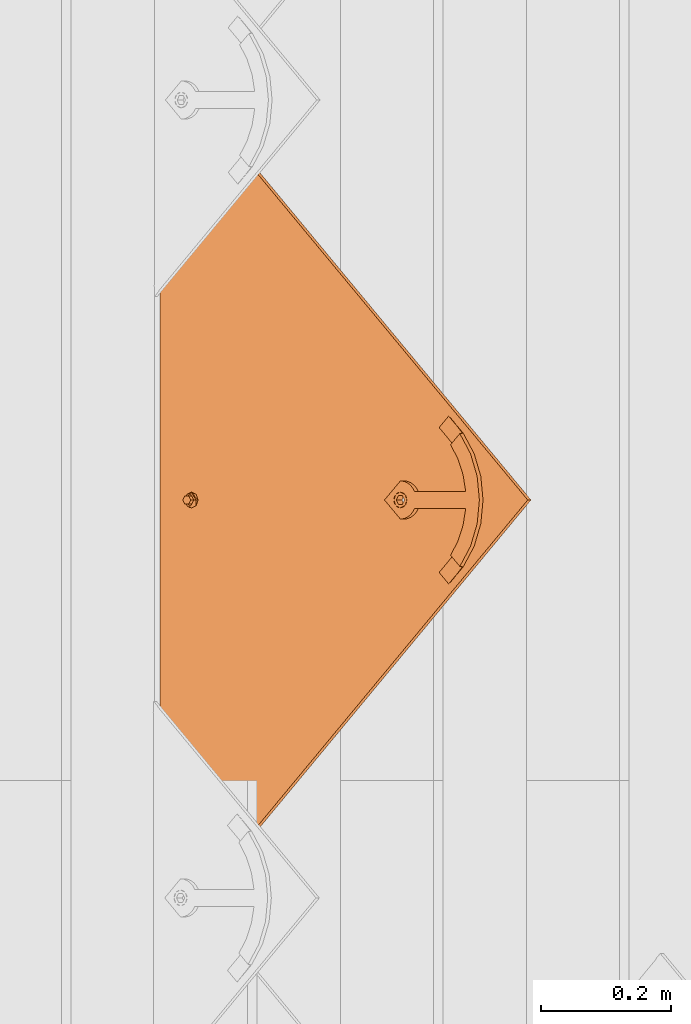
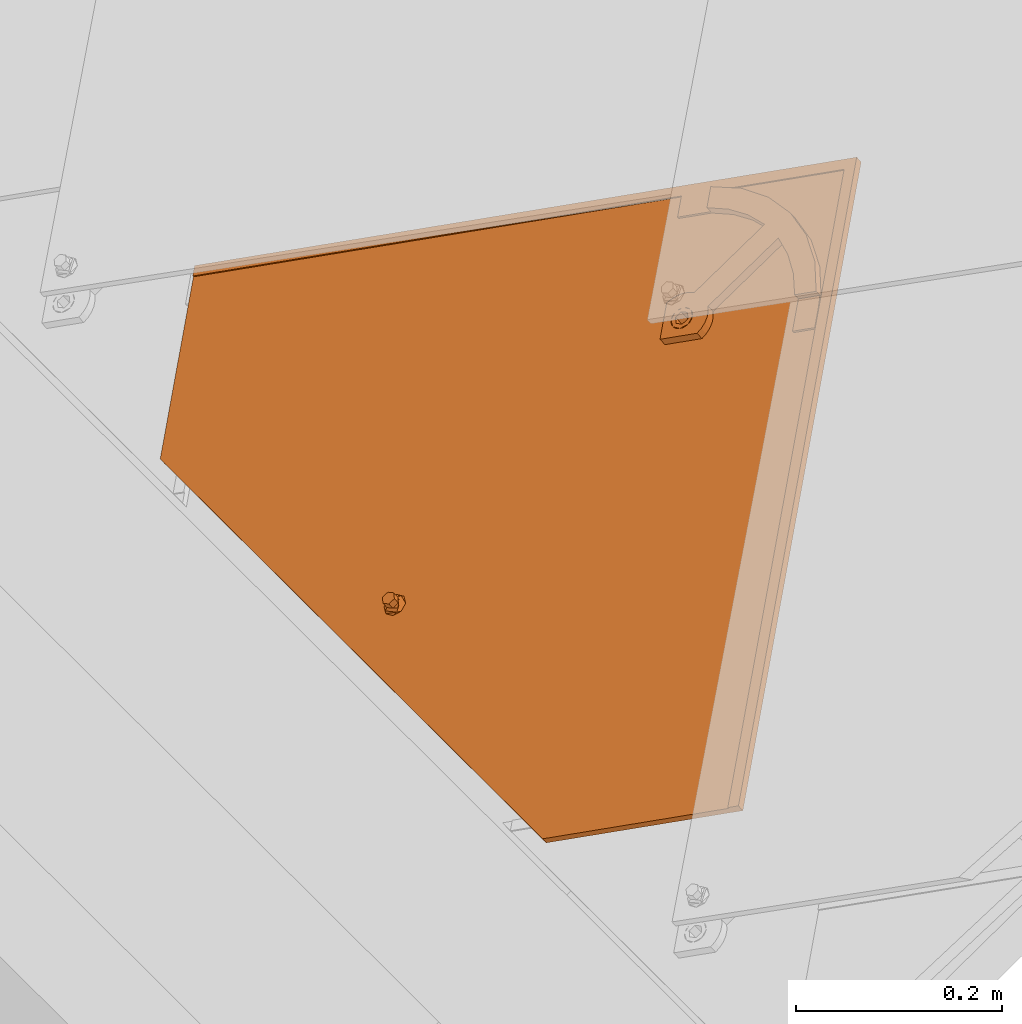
# One storey, part 9 of 151: 1 proxy.
"""IFC2X3 building model written with IfcOpenShell, lengths in millimetres."""

from ifc_helpers import new_model, entity, si_unit, converted_unit, derived_unit, direction, frame, origin, place, context, subcontext, project, spatial, faceted_brep, source, transform, mapped, material, material_list, type_object, type_shapes, element, save


model = new_model("IFC2X3")

# Units and contexts
model_context = context("Model", 3, precision=0.01, world=origin(), true_north=direction((6.12303176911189e-17, 1.0)))
body_context = subcontext(model_context, "Body", "Model", "MODEL_VIEW")
ifc_project = project(units=[si_unit("LENGTHUNIT", "METRE", prefix="MILLI"), si_unit("AREAUNIT", "SQUARE_METRE"), si_unit("VOLUMEUNIT", "CUBIC_METRE"), converted_unit("PLANEANGLEUNIT", "DEGREE", entity("IfcRatioMeasure", 0.0174532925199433), si_unit("PLANEANGLEUNIT", "RADIAN"), dimensions=[0, 0, 0, 0, 0, 0, 0]), si_unit("MASSUNIT", "GRAM", prefix="KILO"), derived_unit("MASSDENSITYUNIT", [(si_unit("MASSUNIT", "GRAM", prefix="KILO"), 1), (si_unit("LENGTHUNIT", "METRE"), -3)]), si_unit("TIMEUNIT", "SECOND"), si_unit("FREQUENCYUNIT", "HERTZ"), si_unit("THERMODYNAMICTEMPERATUREUNIT", "DEGREE_CELSIUS"), derived_unit("THERMALTRANSMITTANCEUNIT", [(si_unit("MASSUNIT", "GRAM", prefix="KILO"), 1), (si_unit("THERMODYNAMICTEMPERATUREUNIT", "KELVIN"), -1), (si_unit("TIMEUNIT", "SECOND"), -3)]), derived_unit("VOLUMETRICFLOWRATEUNIT", [(si_unit("LENGTHUNIT", "METRE"), 3), (si_unit("TIMEUNIT", "SECOND"), -1)]), si_unit("ELECTRICCURRENTUNIT", "AMPERE"), si_unit("ELECTRICVOLTAGEUNIT", "VOLT"), si_unit("POWERUNIT", "WATT"), si_unit("FORCEUNIT", "NEWTON", prefix="KILO"), si_unit("ILLUMINANCEUNIT", "LUX"), si_unit("LUMINOUSFLUXUNIT", "LUMEN"), si_unit("LUMINOUSINTENSITYUNIT", "CANDELA"), derived_unit("USERDEFINED", [(si_unit("MASSUNIT", "GRAM", prefix="KILO"), -1), (si_unit("LENGTHUNIT", "METRE"), -2), (si_unit("TIMEUNIT", "SECOND"), 3), (si_unit("LUMINOUSFLUXUNIT", "LUMEN"), 1)]), derived_unit("LINEARVELOCITYUNIT", [(si_unit("LENGTHUNIT", "METRE"), 1), (si_unit("TIMEUNIT", "SECOND"), -1)]), si_unit("PRESSUREUNIT", "PASCAL"), derived_unit("USERDEFINED", [(si_unit("LENGTHUNIT", "METRE"), -2), (si_unit("MASSUNIT", "GRAM", prefix="KILO"), 1), (si_unit("TIMEUNIT", "SECOND"), -2)])], contexts=[model_context])

# Site, building, storey
site_placement = place(None, origin())
site = spatial("IfcSite", under=ifc_project, at=site_placement, Name="Default", CompositionType="ELEMENT")
building_placement = place(site_placement, origin())
building = spatial("IfcBuilding", under=site, at=building_placement, CompositionType="ELEMENT")
storey_placement = place(building_placement, origin())
storey = spatial("IfcBuildingStorey", under=building, at=storey_placement, Name="Level 1", CompositionType="ELEMENT", Elevation=0.0)

# Proxy
ifc_material_1 = material(Name="Rubber - Sunstyle - Black")
ifc_material_2 = material(Name="Glass - Sunstyle - Tainted Black")
ifc_material_list_1 = material_list([ifc_material_1, ifc_material_2])
ifc_material_list_2 = material_list([ifc_material_1, ifc_material_2])
building_element_proxy_type = type_object("IfcBuildingElementProxyType", Name="Shingle Bottom - Black", PredefinedType="NOTDEFINED", material=ifc_material_list_2)
shared_shape = source(origin(), body_context, "Body", "Brep", [
    faceted_brep([(0.0, -1.79273515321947, -4.01619789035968), (-5.7742028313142, -5.12600528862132, -3.96037390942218), (-5.77420283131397, -4.75769619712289, 18.0314954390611), (0.0, -1.42442606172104, 17.9756714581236), (-5.77420283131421, -11.792545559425, -3.84872594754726), (-5.77420283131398, -11.4242364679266, 18.143143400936), (0.0, -15.1258156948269, -3.79290196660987), (0.0, -14.7575066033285, 18.1989673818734), (5.77420283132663, -11.7925455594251, -3.84872594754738), (5.77420283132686, -11.4242364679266, 18.1431434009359), (5.77420283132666, -5.12600528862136, -3.96037390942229), (5.77420283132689, -4.75769619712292, 18.031495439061), (-8.60370416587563, -16.6934641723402, 18.2313898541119), (0.0, -20.2567354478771, 18.2910657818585), (-12.1674751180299, -8.09096633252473, 18.0873194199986), (-8.60370416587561, 0.511531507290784, 17.9432489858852), (0.0, 4.07480278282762, 17.8835730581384), (8.60370416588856, 0.511531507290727, 17.9432489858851), (12.1674751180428, -8.09096633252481, 18.0873194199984), (8.60370416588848, -16.6934641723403, 18.2313898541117), (-11.4302228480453, -6.71737066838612, 20.4858706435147), (-9.77051349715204, -8.02009729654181, 22.3189355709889), (0.0, -0.706876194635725, 22.9603444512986), (0.0, 0.533621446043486, 22.3799978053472), (0.0, 2.69117229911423, 21.3706227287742), (-6.32324569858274, -4.35709193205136, 23.021476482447), (-6.32324569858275, -11.6575234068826, 23.1437405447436), (0.0, -18.7571148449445, 21.7298281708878), (0.0, -15.3077391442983, 23.2048725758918), (10.9851748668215, -11.808022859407, 20.3827540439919), (10.123850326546, -8.02413622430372, 22.0777687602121), (6.32324569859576, -4.3570919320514, 23.0214764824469), (6.32324569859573, -11.6575234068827, 23.1437405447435), (-6.32324569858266, -11.5234949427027, 31.146628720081), (0.0, -15.1737106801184, 31.2077607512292), (0.0, -7.8732792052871, 31.0854966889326), (-6.32324569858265, -4.22306346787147, 31.0243646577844), (6.32324569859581, -11.5234949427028, 31.1466287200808), (6.32324569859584, -4.22306346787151, 31.0243646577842), (0.0, -0.57284773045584, 30.963232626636), (0.0, -8.45927542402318, -3.90454992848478)], [[[0, 1, 2, 3]], [[1, 4, 5, 2]], [[4, 6, 7, 5]], [[6, 8, 9, 7]], [[8, 10, 11, 9]], [[10, 0, 3, 11]], [[12, 7, 13]], [[7, 12, 5]], [[14, 5, 12]], [[5, 14, 2]], [[15, 2, 14]], [[3, 2, 15]], [[15, 16, 3]], [[16, 17, 3]], [[11, 3, 17]], [[11, 17, 18]], [[9, 11, 18]], [[18, 19, 9]], [[7, 9, 19]], [[19, 13, 7]], [[15, 20, 16]], [[21, 22, 23, 24]], [[22, 21, 25]], [[20, 14, 12]], [[15, 14, 20]], [[25, 21, 26]], [[20, 24, 16]], [[12, 13, 27]], [[12, 27, 20]], [[21, 28, 26]], [[21, 27, 28]], [[20, 21, 24]], [[20, 27, 21]], [[19, 29, 13]], [[30, 23, 31]], [[30, 28, 27]], [[24, 23, 30]], [[29, 27, 13]], [[19, 18, 29]], [[29, 30, 27]], [[29, 17, 24]], [[24, 17, 16]], [[31, 32, 30]], [[23, 22, 31]], [[28, 30, 32]], [[29, 24, 30]], [[29, 18, 17]], [[33, 34, 35]], [[35, 36, 33]], [[34, 37, 35]], [[38, 35, 37]], [[35, 38, 39]], [[35, 39, 36]], [[40, 6, 4]], [[4, 1, 40]], [[1, 0, 40]], [[40, 8, 6]], [[0, 10, 40]], [[8, 40, 10]], [[22, 25, 36, 39]], [[25, 26, 33, 36]], [[26, 28, 34, 33]], [[28, 32, 37, 34]], [[32, 31, 38, 37]], [[31, 22, 39, 38]]]),
    faceted_brep([(0.0, 372.824876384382, 20.3195200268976), (0.0, 377.324245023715, 20.2441667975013), (-8.60370416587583, 376.388147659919, 20.2598440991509), (8.60370416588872, 376.388147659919, 20.2598440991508), (6.64022859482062, 381.157445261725, 20.1799702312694), (12.1674751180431, 384.990645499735, 20.1157736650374), (6.64022859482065, 388.823845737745, 20.0515770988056), (8.6037041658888, 393.59314333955, 19.9717032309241), (0.0, 392.657045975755, 19.9873805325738), (0.0, 397.156414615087, 19.9120273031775), (-8.60370416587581, 393.59314333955, 19.9717032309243), (-6.64022859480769, 388.823845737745, 20.0515770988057), (-12.1674751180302, 384.990645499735, 20.1157736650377), (-6.6402285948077, 381.157445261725, 20.1799702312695), (-6.6402282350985, 388.555922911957, 4.05382046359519), (0.0, 392.389122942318, 3.98962390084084), (-6.64022823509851, 380.889522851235, 4.18221358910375), (0.0, 377.056322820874, 4.24641015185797), (6.64022823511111, 380.889522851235, 4.18221358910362), (6.64022823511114, 388.555922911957, 4.05382046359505), (-8.603704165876, 376.12022504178, 4.26208746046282), (0.0, 372.556953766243, 4.32176338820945), (-12.1674751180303, 384.722722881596, 4.11801702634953), (-8.60370416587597, 393.325220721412, 3.97394659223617), (0.0, 396.888491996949, 3.91427066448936), (8.60370416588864, 393.325220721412, 3.97394659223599), (12.1674751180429, 384.722722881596, 4.11801702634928), (8.60370416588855, 376.12022504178, 4.26208746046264)], [[[0, 1, 2]], [[1, 0, 3]], [[3, 4, 1]], [[4, 3, 5]], [[6, 4, 5]], [[5, 7, 6]], [[7, 8, 6]], [[8, 7, 9]], [[8, 9, 10]], [[10, 11, 8]], [[12, 11, 10]], [[2, 13, 12]], [[12, 13, 11]], [[13, 2, 1]], [[8, 11, 14, 15]], [[11, 13, 16, 14]], [[13, 1, 17, 16]], [[1, 4, 18, 17]], [[4, 6, 19, 18]], [[6, 8, 15, 19]], [[20, 17, 21]], [[17, 20, 16]], [[22, 16, 20]], [[14, 16, 22]], [[23, 14, 22]], [[15, 14, 23]], [[23, 24, 15]], [[24, 25, 15]], [[19, 15, 25]], [[19, 25, 26]], [[26, 18, 19]], [[26, 27, 18]], [[17, 18, 27]], [[27, 21, 17]], [[24, 23, 10, 9]], [[10, 23, 22, 12]], [[20, 21, 0, 2]], [[20, 2, 12, 22]], [[21, 27, 3, 0]], [[3, 27, 26, 5]], [[25, 24, 9, 7]], [[25, 7, 5, 26]]]),
    faceted_brep([(518.247351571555, 79.9143812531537, 14.965257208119), (526.732038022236, 88.3990677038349, 14.8231598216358), (526.732038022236, 88.4241854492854, 16.3229495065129), (518.247351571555, 79.9394989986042, 16.4650468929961), (0.000322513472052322, 598.016093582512, 6.28834266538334), (-518.246706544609, 79.9143812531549, 14.9652572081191), (-526.73139299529, 88.3990677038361, 14.8231598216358), (0.000322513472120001, 614.983087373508, 6.00418773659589), (0.000322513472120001, 615.008205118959, 7.50397742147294), (-526.731392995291, 88.4241854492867, 16.3229495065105), (-518.246706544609, 79.9394989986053, 16.465046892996), (0.000322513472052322, 598.041211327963, 7.78813235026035)], [[[0, 1, 2, 3]], [[1, 0, 4, 5, 6, 7]], [[2, 1, 7, 8]], [[3, 2, 8, 9, 10, 11]], [[0, 3, 11, 4]], [[5, 10, 9, 6]], [[8, 7, 6, 9]], [[4, 11, 10, 5]]]),
    faceted_brep([(0.00032251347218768, 614.983087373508, 6.00418773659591), (-2.87802047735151, 396.187349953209, 9.66847193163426), (0.227808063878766, 396.596182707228, 9.6616250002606), (-5.77219193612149, 394.988712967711, 9.68854611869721), (3.3336366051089, 396.187349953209, 9.66847193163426), (6.22780806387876, 394.988712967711, 9.6885461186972), (8.71308943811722, 393.081956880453, 9.72047953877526), (10.620112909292, 390.59702396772, 9.76209598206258), (-8.25747331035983, 393.081956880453, 9.72047953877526), (-10.1644967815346, 390.59702396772, 9.76209598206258), (-11.3633018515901, 387.703258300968, 9.81055935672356), (-526.731392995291, 88.3990677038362, 14.8231598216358), (11.8189179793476, 387.703258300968, 9.81055935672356), (526.732038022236, 88.3990677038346, 14.8231598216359), (-11.7721919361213, 384.597865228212, 9.86256696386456), (-11.3633018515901, 381.492472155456, 9.91457457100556), (-10.1644967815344, 378.598706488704, 9.96303794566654), (-370.355016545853, -67.9334607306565, 17.4413406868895), (-8.25747331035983, 376.113773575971, 10.0046543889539), (-5.65685424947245, -2.29422365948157, 16.3420467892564), (-6.92820323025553, -3.95084560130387, 16.3697910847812), (-7.72740661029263, -5.88002271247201, 16.4021000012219), (-8.0, -7.95028476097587, 16.4367717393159), (-7.72740661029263, -10.0205468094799, 16.4714434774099), (-6.9282032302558, -11.9497239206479, 16.5037523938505), (-5.65685424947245, -13.6063458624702, 16.5314966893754), (-4.0, -14.8775165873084, 16.5527856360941), (-2.07055236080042, -15.676607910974, 16.5661684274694), (0.0, -15.9491630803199, 16.5707330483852), (370.355661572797, -67.9334607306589, 17.4413406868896), (10.620112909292, 378.598706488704, 9.96303794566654), (8.71308943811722, 376.11377357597, 10.0046543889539), (5.65685424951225, -2.29422365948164, 16.3420467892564), (6.92820323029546, -3.9508456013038, 16.3697910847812), (7.72740661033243, -5.88002271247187, 16.4021000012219), (8.0, -7.9502847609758, 16.4367717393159), (7.72740661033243, -10.0205468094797, 16.4714434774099), (6.92820323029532, -11.9497239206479, 16.5037523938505), (5.65685424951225, -13.6063458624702, 16.5314966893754), (4.0, -14.8775165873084, 16.5527856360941), (2.07055236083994, -15.676607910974, 16.5661684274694), (-5.77219193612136, 374.207017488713, 10.0365878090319), (-4.0, -1.02305293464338, 16.3207578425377), (-2.87802047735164, 373.008380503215, 10.0566619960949), (-2.07055236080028, -0.223961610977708, 16.3073750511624), (0.227808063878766, 372.599547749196, 10.0635089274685), (0.0, 0.0485935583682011, 16.3028104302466), (2.07055236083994, -0.223961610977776, 16.3073750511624), (3.3336366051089, 373.008380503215, 10.0566619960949), (4.0, -1.02305293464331, 16.3207578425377), (6.22780806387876, 374.207017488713, 10.0365878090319), (12.2278080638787, 384.597865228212, 9.86256696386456), (11.8189179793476, 381.492472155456, 9.91457457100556), (-370.355016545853, -68.059049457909, 9.94239226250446), (-6.92820323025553, -4.07643432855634, 8.87084266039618), (-7.72740661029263, -6.00561143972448, 8.90315157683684), (-8.0, -8.07587348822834, 8.93782331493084), (-7.72740661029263, -10.1461355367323, 8.97249505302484), (-6.9282032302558, -12.0753126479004, 9.00480396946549), (-5.65685424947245, -13.7319345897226, 9.03254826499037), (-5.65685424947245, -2.41981238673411, 8.8430983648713), (-8.25747331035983, 375.988184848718, 2.50570596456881), (-4.0, -15.0031053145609, 9.05383721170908), (-2.07055236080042, -15.8021966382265, 9.06722000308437), (0.0, -16.0747518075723, 9.07178462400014), (370.355661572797, -68.0590494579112, 9.9423922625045), (-10.1644967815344, 378.473117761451, 2.46408952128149), (-526.731392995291, 88.2734789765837, 7.32421139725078), (-11.3633018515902, 381.366883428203, 2.41562614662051), (-11.7721919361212, 384.472276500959, 2.36361853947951), (-11.3633018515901, 387.577669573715, 2.3116109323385), (0.00032251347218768, 614.857498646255, -1.49476068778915), (-10.1644967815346, 390.471435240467, 2.26314755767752), (-8.25747331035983, 392.956368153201, 2.22153111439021), (-5.77219193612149, 394.863124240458, 2.18959769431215), (-2.87802047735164, 396.061761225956, 2.16952350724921), (0.227808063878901, 396.470593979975, 2.16267657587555), (3.3336366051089, 396.061761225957, 2.1695235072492), (6.22780806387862, 394.863124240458, 2.18959769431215), (8.71308943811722, 392.956368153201, 2.2215311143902), (10.620112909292, 390.471435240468, 2.26314755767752), (11.8189179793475, 387.577669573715, 2.31161093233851), (526.732038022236, 88.2734789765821, 7.32421139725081), (12.2278080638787, 384.472276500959, 2.3636185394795), (10.620112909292, 378.473117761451, 2.46408952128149), (11.8189179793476, 381.366883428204, 2.41562614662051), (-5.77219193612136, 374.08142876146, 2.53763938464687), (-4.0, -1.14864166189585, 8.8218094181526), (-2.87802047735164, 372.882791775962, 2.55771357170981), (-2.07055236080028, -0.349550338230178, 8.8084266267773), (0.227808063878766, 372.473959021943, 2.56456050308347), (0.0, -0.0769951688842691, 8.80386200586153), (2.07055236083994, -0.349550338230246, 8.8084266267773), (3.3336366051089, 372.882791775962, 2.55771357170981), (4.0, -1.14864166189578, 8.8218094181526), (6.22780806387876, 374.081428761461, 2.53763938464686), (5.65685424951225, -2.41981238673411, 8.8430983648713), (8.71308943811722, 375.988184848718, 2.50570596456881), (6.92820323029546, -4.07643432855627, 8.87084266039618), (7.72740661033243, -6.00561143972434, 8.90315157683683), (8.0, -8.07587348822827, 8.93782331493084), (7.72740661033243, -10.1461355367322, 8.97249505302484), (6.92820323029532, -12.0753126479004, 9.00480396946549), (5.65685424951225, -13.7319345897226, 9.03254826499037), (4.0, -15.0031053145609, 9.05383721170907), (2.07055236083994, -15.8021966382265, 9.06722000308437)], [[[0, 1, 2]], [[1, 0, 3]], [[0, 2, 4]], [[4, 5, 0]], [[5, 6, 0]], [[0, 6, 7]], [[8, 3, 0]], [[9, 8, 0]], [[9, 0, 10]], [[10, 0, 11]], [[12, 0, 7]], [[12, 13, 0]], [[11, 14, 10]], [[14, 11, 15]], [[16, 15, 11]], [[11, 17, 16]], [[16, 17, 18]], [[19, 18, 17]], [[19, 17, 20]], [[20, 17, 21]], [[22, 21, 17]], [[22, 17, 23]], [[24, 23, 17]], [[17, 25, 24]], [[26, 25, 17]], [[27, 26, 17]], [[17, 28, 27]], [[28, 17, 29]], [[29, 13, 30]], [[29, 30, 31]], [[29, 31, 32]], [[32, 33, 29]], [[33, 34, 29]], [[35, 29, 34]], [[29, 35, 36]], [[36, 37, 29]], [[29, 37, 38]], [[38, 39, 29]], [[40, 28, 29]], [[39, 40, 29]], [[41, 18, 19]], [[42, 41, 19]], [[42, 43, 41]], [[44, 43, 42]], [[44, 45, 43]], [[46, 45, 44]], [[47, 45, 46]], [[48, 45, 47]], [[49, 48, 47]], [[49, 50, 48]], [[32, 50, 49]], [[32, 31, 50]], [[12, 51, 13]], [[52, 13, 51]], [[13, 52, 30]], [[53, 54, 55]], [[53, 55, 56]], [[56, 57, 53]], [[57, 58, 53]], [[53, 58, 59]], [[60, 54, 53]], [[61, 60, 53]], [[59, 62, 53]], [[62, 63, 53]], [[63, 64, 53]], [[53, 64, 65]], [[66, 61, 53]], [[66, 53, 67]], [[68, 66, 67]], [[69, 68, 67]], [[69, 67, 70]], [[67, 71, 70]], [[72, 70, 71]], [[73, 72, 71]], [[71, 74, 73]], [[74, 71, 75]], [[75, 71, 76]], [[77, 76, 71]], [[77, 71, 78]], [[79, 78, 71]], [[71, 80, 79]], [[80, 71, 81]], [[71, 82, 81]], [[83, 81, 82]], [[84, 82, 65]], [[85, 82, 84]], [[82, 85, 83]], [[86, 60, 61]], [[86, 87, 60]], [[88, 87, 86]], [[89, 87, 88]], [[90, 89, 88]], [[90, 91, 89]], [[92, 91, 90]], [[92, 90, 93]], [[94, 92, 93]], [[93, 95, 94]], [[94, 95, 96]], [[97, 96, 95]], [[96, 97, 65]], [[84, 65, 97]], [[98, 96, 65]], [[99, 98, 65]], [[99, 65, 100]], [[101, 100, 65]], [[102, 101, 65]], [[103, 102, 65]], [[104, 103, 65]], [[105, 104, 65]], [[65, 64, 105]], [[11, 0, 71, 67]], [[17, 11, 67, 53]], [[13, 29, 65, 82]], [[0, 13, 82, 71]], [[22, 56, 55, 21]], [[21, 55, 54, 20]], [[42, 19, 60, 87]], [[60, 19, 20, 54]], [[44, 42, 87, 89]], [[44, 89, 91, 46]], [[46, 91, 92, 47]], [[47, 92, 94, 49]], [[33, 32, 96, 98]], [[96, 32, 49, 94]], [[34, 33, 98, 99]], [[34, 99, 100, 35]], [[35, 100, 101, 36]], [[36, 101, 102, 37]], [[39, 38, 103, 104]], [[103, 38, 37, 102]], [[40, 39, 104, 105]], [[40, 105, 64, 28]], [[28, 64, 63, 27]], [[27, 63, 62, 26]], [[24, 25, 59, 58]], [[59, 25, 26, 62]], [[23, 24, 58, 57]], [[23, 57, 56, 22]], [[14, 69, 70, 10]], [[10, 70, 72, 9]], [[3, 8, 73, 74]], [[73, 8, 9, 72]], [[1, 3, 74, 75]], [[1, 75, 76, 2]], [[2, 76, 77, 4]], [[4, 77, 78, 5]], [[7, 6, 79, 80]], [[79, 6, 5, 78]], [[12, 7, 80, 81]], [[12, 81, 83, 51]], [[51, 83, 85, 52]], [[52, 85, 84, 30]], [[50, 31, 97, 95]], [[97, 31, 30, 84]], [[48, 50, 95, 93]], [[48, 93, 90, 45]], [[45, 90, 88, 43]], [[43, 88, 86, 41]], [[16, 18, 61, 66]], [[41, 86, 61, 18]], [[68, 15, 16, 66]], [[15, 68, 69, 14]], [[29, 17, 53, 65]]]),
    faceted_brep([(-111.269043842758, 451.472531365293, 11.2429332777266), (-84.9443960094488, 477.793488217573, 10.8021227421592), (-102.027571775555, 494.874268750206, 10.5160621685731), (-108.279973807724, 489.512620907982, 10.6058564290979), (-114.2509690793, 483.839345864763, 10.7008696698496), (-128.946713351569, 469.147722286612, 10.9469178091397), (128.946713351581, 469.147722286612, 10.9469178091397), (114.250969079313, 483.839345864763, 10.7008696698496), (108.279973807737, 489.512620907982, 10.6058564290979), (102.027571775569, 494.874268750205, 10.5160621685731), (84.9431983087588, 477.794685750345, 10.802102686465), (111.269043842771, 451.472531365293, 11.2429332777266), (-8.48528137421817, 393.302959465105, 19.7181805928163), (-18.7041061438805, 407.484939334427, 19.4806677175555), (-23.2046504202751, 402.851933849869, 19.5582590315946), (-10.3923048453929, 390.818026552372, 19.7597970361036), (-6.0, 395.209715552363, 19.6862471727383), (-13.2999999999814, 411.02298750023, 19.4214142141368), (-3.10582854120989, 396.408352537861, 19.6661729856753), (0.0, 396.81718529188, 19.6593260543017), (13.3000000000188, 411.022987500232, 19.4214142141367), (3.10582854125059, 396.408352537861, 19.6661729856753), (6.0, 395.209715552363, 19.6862471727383), (18.7041061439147, 407.484939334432, 19.4806677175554), (8.48528137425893, 393.302959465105, 19.7181805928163), (23.2046504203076, 402.85193384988, 19.5582590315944), (10.3923048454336, 390.818026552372, 19.7597970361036), (26.5842195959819, 397.347783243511, 19.6504398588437), (11.5911099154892, 387.92426088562, 19.8082604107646), (28.6795527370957, 391.238383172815, 19.752757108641), (12.0, 384.818867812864, 19.8602680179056), (29.3894280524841, 384.818867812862, 19.8602680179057), (11.5911099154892, 381.713474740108, 19.9122756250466), (10.3923048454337, 378.819709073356, 19.9607389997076), (8.48528137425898, 376.334776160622, 20.0023554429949), (0.0, 355.433560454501, 20.3523987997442), (6.0, 374.428020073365, 20.034288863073), (3.10582854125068, 373.229383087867, 20.0543630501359), (0.0, 372.820550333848, 20.0612099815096), (-3.10582854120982, 373.229383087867, 20.0543630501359), (-6.0, 374.428020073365, 20.034288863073), (-8.48528137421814, 376.334776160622, 20.0023554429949), (-29.3894280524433, 384.818867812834, 19.8602680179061), (-10.3923048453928, 378.819709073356, 19.9607389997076), (-11.5911099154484, 381.713474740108, 19.9122756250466), (-12.0, 384.818867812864, 19.8602680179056), (-28.67955273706, 391.238383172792, 19.7527571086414), (-11.5911099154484, 387.92426088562, 19.8082604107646), (-26.5842195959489, 397.347783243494, 19.650439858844), (-13.2999999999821, 505.810987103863, 17.833951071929), (13.3000000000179, 505.810987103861, 17.833951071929), (0.0, 531.282600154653, 17.4073649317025), (36.4908407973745, 527.108634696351, 17.4772684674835), (38.7697427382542, 500.996106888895, 17.9145883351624), (71.096085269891, 514.802420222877, 17.6833669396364), (62.9243331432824, 491.592473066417, 18.0720758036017), (102.027571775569, 494.999857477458, 18.0150105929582), (84.9443960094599, 477.919076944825, 18.3010711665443), (-36.4908407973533, 527.108634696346, 17.4772684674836), (-38.7697427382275, 500.996106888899, 17.9145883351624), (-71.0960852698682, 514.802420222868, 17.6833669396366), (-62.9243331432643, 491.592473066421, 18.0720758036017), (-102.027571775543, 494.999857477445, 18.0150105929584), (-84.9443960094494, 477.919076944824, 18.3010711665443), (0.0, 355.266108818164, 10.3538009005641), (0.0, 372.653098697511, 10.0626120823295), (3.10582854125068, 373.06193145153, 10.0557651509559), (-3.10582854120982, 373.06193145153, 10.0557651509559), (6.0, 374.260568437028, 10.0356909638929), (8.48528137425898, 376.167324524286, 10.0037575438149), (29.3894280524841, 384.651416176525, 9.86167011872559), (-6.0, 374.260568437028, 10.0356909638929), (-8.48528137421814, 376.167324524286, 10.0037575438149), (-29.3894280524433, 384.651416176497, 9.86167011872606), (-10.3923048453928, 378.652257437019, 9.96214110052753), (-11.5911099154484, 381.546023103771, 9.91367772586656), (-12.0, 384.651416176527, 9.86167011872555), (-28.67955273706, 391.070931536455, 9.75415920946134), (-11.5911099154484, 387.756809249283, 9.80966251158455), (-26.5842195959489, 397.180331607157, 9.65184195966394), (-10.3923048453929, 390.650574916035, 9.76119913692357), (-23.2046504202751, 402.684482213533, 9.5596611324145), (-8.48528137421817, 393.135507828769, 9.71958269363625), (-18.7041061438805, 407.31748769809, 9.48206981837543), (-6.0, 395.042263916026, 9.6876492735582), (-13.2999999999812, 410.855535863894, 9.4228163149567), (-3.10582854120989, 396.240900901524, 9.66757508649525), (0.0, 396.649733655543, 9.66072815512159), (13.3000000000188, 410.855535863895, 9.42281631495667), (-13.2999999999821, 505.643535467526, 7.83535317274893), (13.3000000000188, 505.643535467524, 7.83535317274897), (0.0, 531.115148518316, 7.4087670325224), (-36.4908407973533, 526.94118306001, 7.47867056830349), (-38.7697427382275, 500.828655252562, 7.91599043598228), (-71.0960852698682, 514.634968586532, 7.68476904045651), (-62.9243331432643, 491.425021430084, 8.07347790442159), (-102.027571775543, 494.832405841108, 8.01641269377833), (-84.9431983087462, 477.752822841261, 8.30245321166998), (-108.279973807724, 489.470757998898, 8.10620695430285), (-114.2509690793, 483.79748295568, 8.2012201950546), (-111.269043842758, 451.430668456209, 8.74328380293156), (-128.946713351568, 469.105859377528, 8.44726833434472), (36.4908407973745, 526.941183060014, 7.47867056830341), (38.7697427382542, 500.828655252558, 7.91599043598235), (71.096085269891, 514.634968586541, 7.68476904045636), (62.9243331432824, 491.425021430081, 8.07347790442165), (102.027571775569, 494.832405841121, 8.01641269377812), (84.9443960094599, 477.751625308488, 8.30247326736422), (108.279973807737, 489.470757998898, 8.10620695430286), (114.250969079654, 483.797482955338, 8.20122019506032), (111.269043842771, 451.430668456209, 8.74328380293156), (128.946713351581, 469.105859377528, 8.44726833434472), (3.10582854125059, 396.240900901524, 9.66757508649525), (6.0, 395.042263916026, 9.6876492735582), (18.7041061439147, 407.317487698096, 9.48206981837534), (8.48528137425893, 393.135507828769, 9.71958269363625), (23.2046504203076, 402.684482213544, 9.55966113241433), (10.3923048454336, 390.650574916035, 9.76119913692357), (26.5842195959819, 397.180331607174, 9.65184195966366), (11.5911099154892, 387.756809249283, 9.80966251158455), (28.6795527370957, 391.070931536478, 9.75415920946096), (12.0, 384.651416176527, 9.86167011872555), (11.5911099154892, 381.546023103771, 9.91367772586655), (10.3923048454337, 378.652257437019, 9.96214110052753)], [[[0, 1, 2, 3, 4, 5]], [[6, 7, 8, 9, 10, 11]], [[12, 13, 14]], [[15, 12, 14]], [[16, 13, 12]], [[13, 16, 17]], [[17, 16, 18]], [[18, 19, 17]], [[20, 17, 19]], [[19, 21, 20]], [[22, 20, 21]], [[22, 23, 20]], [[22, 24, 23]], [[25, 23, 24]], [[26, 25, 24]], [[25, 26, 27]], [[26, 28, 27]], [[29, 27, 28]], [[28, 30, 29]], [[31, 29, 30]], [[30, 32, 31]], [[32, 33, 31]], [[31, 33, 34]], [[34, 35, 31]], [[34, 36, 35]], [[37, 35, 36]], [[38, 35, 37]], [[35, 38, 39]], [[40, 35, 39]], [[40, 41, 35]], [[42, 35, 41]], [[43, 42, 41]], [[43, 44, 42]], [[44, 45, 42]], [[45, 46, 42]], [[46, 45, 47]], [[48, 46, 47]], [[47, 15, 48]], [[48, 15, 14]], [[20, 49, 17]], [[49, 20, 50]], [[51, 49, 50]], [[50, 52, 51]], [[53, 52, 50]], [[52, 53, 54]], [[55, 54, 53]], [[54, 55, 56]], [[55, 57, 56]], [[58, 49, 51]], [[49, 58, 59]], [[60, 59, 58]], [[60, 61, 59]], [[61, 60, 62]], [[61, 62, 63]], [[64, 65, 66]], [[65, 64, 67]], [[64, 66, 68]], [[68, 69, 64]], [[64, 69, 70]], [[71, 67, 64]], [[71, 64, 72]], [[72, 64, 73]], [[73, 74, 72]], [[74, 73, 75]], [[76, 75, 73]], [[77, 76, 73]], [[76, 77, 78]], [[78, 77, 79]], [[80, 78, 79]], [[81, 80, 79]], [[82, 80, 81]], [[81, 83, 82]], [[83, 84, 82]], [[84, 83, 85]], [[85, 86, 84]], [[87, 86, 85]], [[87, 85, 88]], [[88, 85, 89]], [[88, 89, 90]], [[89, 91, 90]], [[91, 89, 92]], [[93, 92, 89]], [[94, 92, 93]], [[93, 95, 94]], [[95, 96, 94]], [[97, 96, 95]], [[98, 96, 97]], [[99, 98, 97]], [[97, 100, 99]], [[101, 99, 100]], [[102, 90, 91]], [[90, 102, 103]], [[104, 103, 102]], [[103, 104, 105]], [[105, 104, 106]], [[107, 105, 106]], [[107, 106, 108]], [[109, 107, 108]], [[110, 107, 109]], [[111, 110, 109]], [[87, 88, 112]], [[113, 112, 88]], [[114, 113, 88]], [[115, 113, 114]], [[115, 114, 116]], [[116, 117, 115]], [[116, 118, 117]], [[117, 118, 119]], [[119, 118, 120]], [[121, 119, 120]], [[120, 70, 121]], [[122, 121, 70]], [[70, 69, 123]], [[123, 122, 70]], [[17, 49, 89, 85]], [[13, 17, 85, 83]], [[14, 13, 83, 81]], [[81, 79, 48, 14]], [[46, 48, 79, 77]], [[42, 46, 77, 73]], [[35, 42, 73, 64]], [[31, 35, 64, 70]], [[29, 31, 70, 120]], [[27, 29, 120, 118]], [[118, 116, 25, 27]], [[23, 25, 116, 114]], [[20, 23, 114, 88]], [[50, 20, 88, 90]], [[9, 106, 104, 54, 56]], [[52, 54, 104, 102]], [[51, 52, 102, 91]], [[58, 51, 91, 92]], [[94, 96, 2, 62, 60]], [[60, 58, 92, 94]], [[45, 76, 78, 47]], [[47, 78, 80, 15]], [[16, 12, 82, 84]], [[80, 82, 12, 15]], [[18, 16, 84, 86]], [[87, 19, 18, 86]], [[21, 112, 113, 22]], [[22, 113, 115, 24]], [[28, 26, 117, 119]], [[115, 117, 26, 24]], [[30, 28, 119, 121]], [[21, 19, 87, 112]], [[30, 121, 122, 32]], [[32, 122, 123, 33]], [[36, 34, 69, 68]], [[123, 69, 34, 33]], [[37, 36, 68, 66]], [[65, 38, 37, 66]], [[39, 67, 71, 40]], [[40, 71, 72, 41]], [[44, 43, 74, 75]], [[72, 74, 43, 41]], [[45, 44, 75, 76]], [[39, 38, 65, 67]], [[7, 6, 111, 109]], [[6, 11, 110, 111]], [[7, 109, 108, 8]], [[108, 106, 9, 8]], [[11, 10, 107, 110]], [[0, 5, 101, 100]], [[1, 0, 100, 97]], [[2, 96, 98, 3]], [[98, 99, 4, 3]], [[5, 4, 99, 101]], [[63, 62, 2, 1]], [[56, 57, 10]], [[10, 9, 56]], [[1, 95, 61, 63]], [[1, 97, 95]], [[93, 89, 49, 59]], [[95, 93, 59, 61]], [[90, 103, 53, 50]], [[103, 105, 55, 53]], [[10, 57, 55]], [[107, 10, 105]], [[55, 105, 10]]]),
])
type_shapes(building_element_proxy_type, [shared_shape])
proxy_placement = place(storey_placement, frame((-2246.70507148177, -5313.60047617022, 372.110409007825), z_axis=(-0.57357643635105, 0.0, 0.819152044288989), x_axis=(0.0, -1.0, 0.0)))
element("IfcBuildingElementProxy", 1, at=proxy_placement, inside=storey, type_object=building_element_proxy_type, material=ifc_material_list_1, Name="Roofing_Panels_SunStyle_Tile_Shingle-Bottom:Shingle Bottom - Black", ObjectType="Roofing_Panels_SunStyle_Tile_Shingle-Bottom:Shingle Bottom - Black", context=body_context, shape_type="MappedRepresentation", body=[
    mapped(shared_shape, transform((0.0, 0.0, 0.0), scale=1.0)),
])

save(model, "model.ifc")
